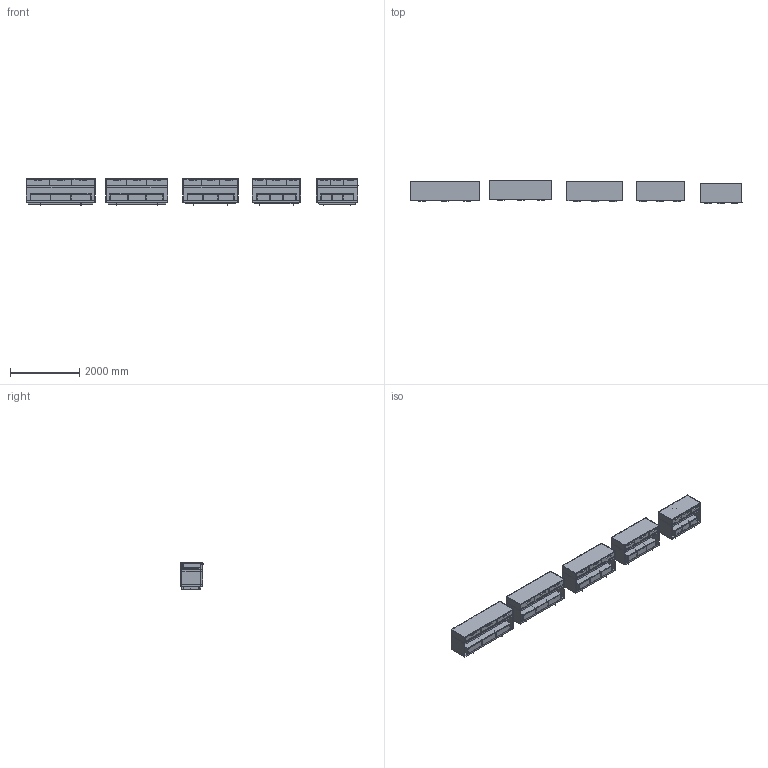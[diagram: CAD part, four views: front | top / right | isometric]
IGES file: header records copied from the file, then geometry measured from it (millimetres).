
Global section: file name: \\Archi-NAS\Comune\X GIOVANNI\SCHEDE PRODOTTO\MOBILI 3D\EXCELLENT\MOMA DESIGN_MOBILI_EXCELLENT GLASS_02.igs; native system: Rhinoceros ( Jan 17 2018 ); preprocessor: Trout Lake IGES 012 Jan 17 2018; date: 240424.092228; units: millimetre
Bounding box: 9595.64 x 685.85 x 800.3 mm (x, y, z)
Surface area: 96415624.5 mm2 (no closed solid volume)
Topology: 0 solids, 0 shells, 5628 faces, 29300 edges, 29330 vertices
Faces by surface type: bspline 5628
